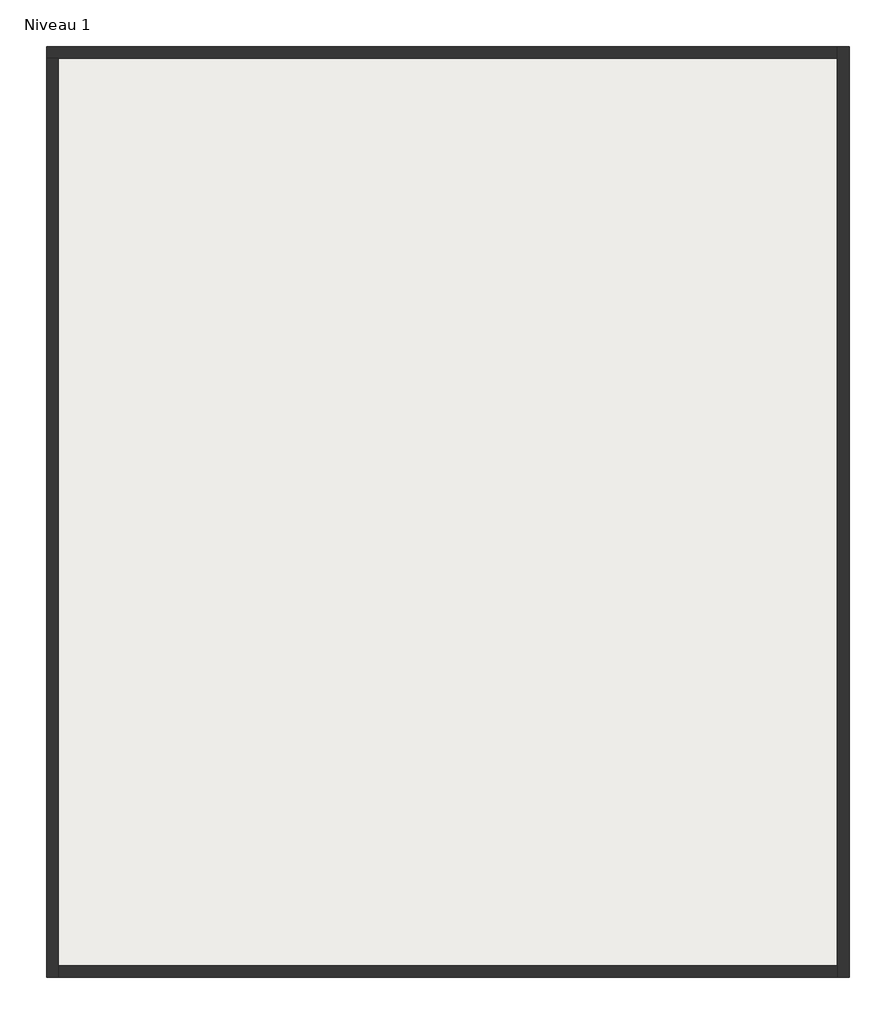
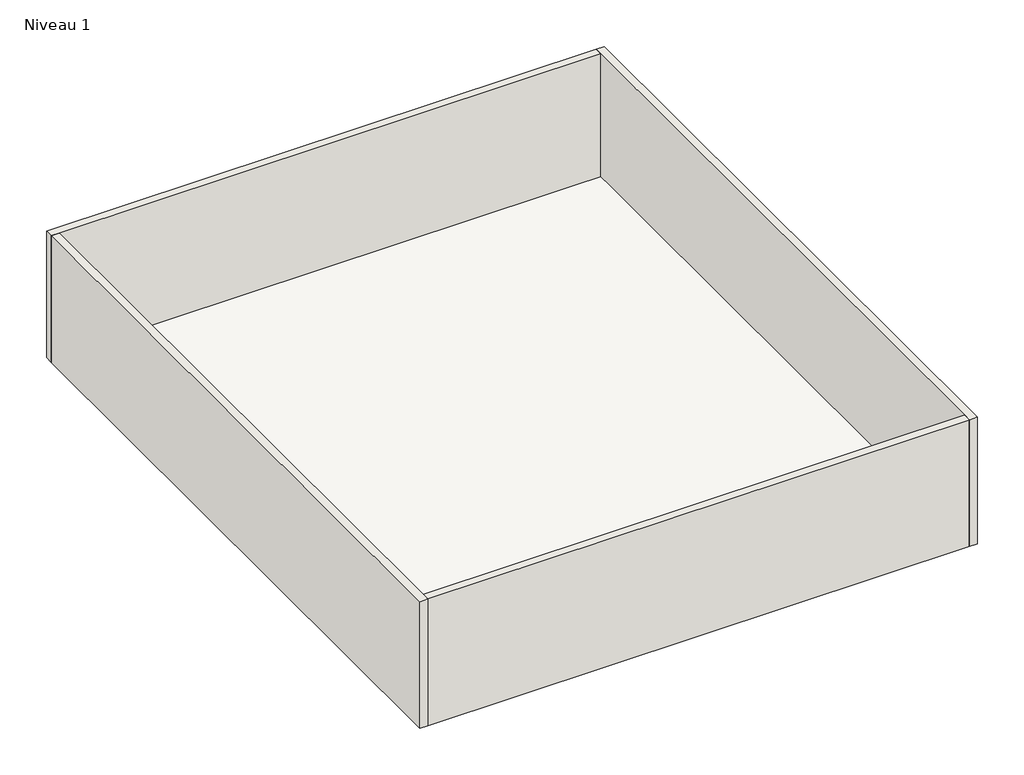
# One storey: 4 walls, 1 slab.
"""IFC4 building model written with IfcOpenShell, lengths in millimetres."""

from ifc_helpers import new_model, si_unit, frame, origin, place, context, project, spatial, polyline, outline, extrude, faceted_brep, element, save

model = new_model("IFC4")

# Units and contexts
model_context = context("Model", 3, world=origin())
ifc_project = project(units=[si_unit("LENGTHUNIT", "METRE", prefix="MILLI")], contexts=[model_context])

# Site, building, storey
site = spatial("IfcSite", under=ifc_project)
building = spatial("IfcBuilding", under=site)
storey = spatial("IfcBuildingStorey", under=building, Name="Niveau 1", Elevation=0.0)

# Slab
placement = place(None, origin())
element("IfcSlab", 1, ObjectType="Sol générique - 400\xa0mm", at=placement, inside=storey, context=model_context, shape_type="SweptSolid", body=[
    extrude(outline(polyline([(-11966.1712982, 18269.3994283), (20459.8287018, 18269.3994283), (20459.8287018, -19456.6005717), (-11966.1712982, -19456.6005717), (-11966.1712982, 18269.3994283)])), frame((0.0, 0.0, -400.0), z_axis=(0.0, 0.0, 1.0), x_axis=(1.0, 0.0, 0.0)), (0.0, 0.0, 1.0), 400.0),
])

# Walls
element("IfcWall", 2, ObjectType="Extérieur - Brique sur éléments de maçonnerie en béton", at=placement, inside=storey, context=model_context, shape_type="Brep", body=[
    faceted_brep([(-12398.1712982, 18211.3994283, -250.0), (-11908.1712982, 18211.3994283, -250.0), (20401.8287018, 18211.3994283, -250.0), (20401.8287018, 18211.3994283, 7750.0), (-11908.1712982, 18211.3994283, 7750.0), (-12398.1712982, 18211.3994283, 7750.0), (-12398.1712982, 18701.3994283, -250.0), (-12398.1712982, 18701.3994283, 7750.0), (20401.8287018, 18701.3994283, 7750.0), (20401.8287018, 18701.3994283, -250.0)], [[[0, 1, 2, 3, 4, 5]], [[6, 7, 8, 9]], [[2, 1, 0, 6, 9]], [[5, 4, 3, 8, 7]], [[0, 5, 7, 6]], [[3, 2, 9, 8]]]),
])
element("IfcWall", 3, ObjectType="Extérieur - Brique sur éléments de maçonnerie en béton", at=placement, inside=storey, context=model_context, shape_type="Brep", body=[
    faceted_brep([(-11908.1712982, -19888.6005717, -250.0), (-11908.1712982, -19398.6005717, -250.0), (-11908.1712982, 18211.3994283, -250.0), (-11908.1712982, 18211.3994283, 7750.0), (-11908.1712982, -19398.6005717, 7750.0), (-11908.1712982, -19888.6005717, 7750.0), (-12398.1712982, -19888.6005717, -250.0), (-12398.1712982, -19888.6005717, 7750.0), (-12398.1712982, 18211.3994283, 7750.0), (-12398.1712982, 18211.3994283, -250.0)], [[[0, 1, 2, 3, 4, 5]], [[6, 7, 8, 9]], [[2, 1, 0, 6, 9]], [[5, 4, 3, 8, 7]], [[0, 5, 7, 6]], [[3, 2, 9, 8]]]),
])
element("IfcWall", 4, ObjectType="Extérieur - Brique sur éléments de maçonnerie en béton", at=placement, inside=storey, context=model_context, shape_type="SweptSolid", body=[
    extrude(outline(polyline([(-11908.1712982, -19398.6005717), (20401.8287018, -19398.6005717), (20401.8287018, -19888.6005717), (-11908.1712982, -19888.6005717), (-11908.1712982, -19398.6005717)])), frame((0.0, 0.0, -250.0), z_axis=(0.0, 0.0, 1.0), x_axis=(1.0, 0.0, 0.0)), (0.0, 0.0, 1.0), 8000.0),
])
element("IfcWall", 5, ObjectType="Extérieur - Brique sur éléments de maçonnerie en béton", at=placement, inside=storey, context=model_context, shape_type="Brep", body=[
    faceted_brep([(20401.8287018, 18701.3994283, -250.0), (20401.8287018, 18211.3994283, -250.0), (20401.8287018, -19398.6005717, -250.0), (20401.8287018, -19888.6005717, -250.0), (20401.8287018, -19888.6005717, 7750.0), (20401.8287018, -19398.6005717, 7750.0), (20401.8287018, 18211.3994283, 7750.0), (20401.8287018, 18701.3994283, 7750.0), (20891.8287018, 18701.3994283, -250.0), (20891.8287018, 18701.3994283, 7750.0), (20891.8287018, -19888.6005717, 7750.0), (20891.8287018, -19888.6005717, -250.0)], [[[0, 1, 2, 3, 4, 5, 6, 7]], [[8, 9, 10, 11]], [[3, 2, 1, 0, 8, 11]], [[7, 6, 5, 4, 10, 9]], [[0, 7, 9, 8]], [[4, 3, 11, 10]]]),
])

save(model, "model.ifc")
